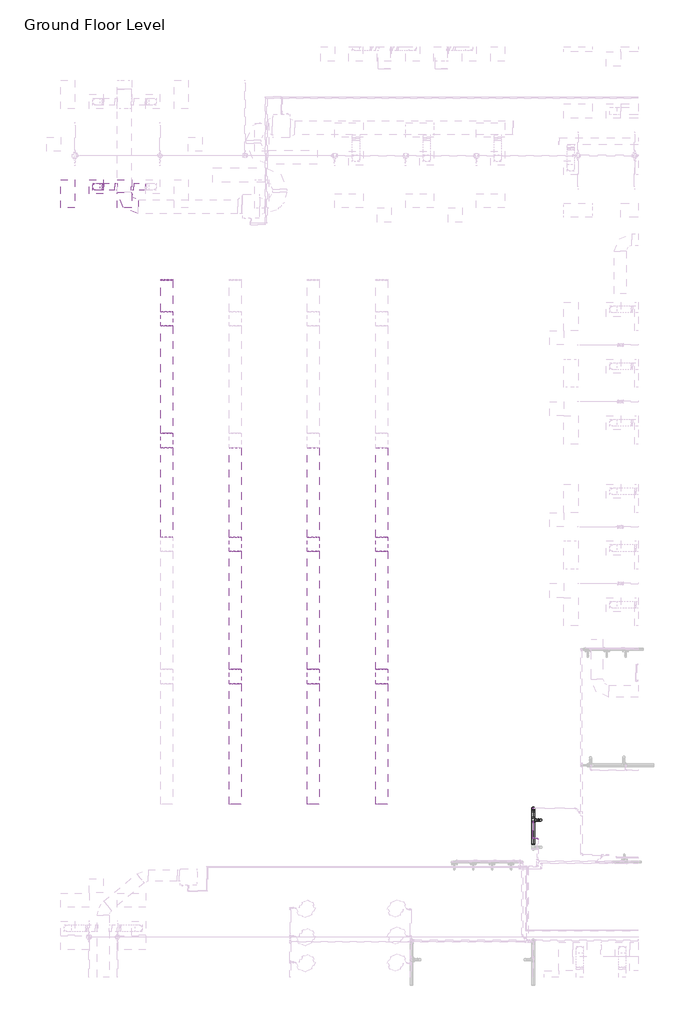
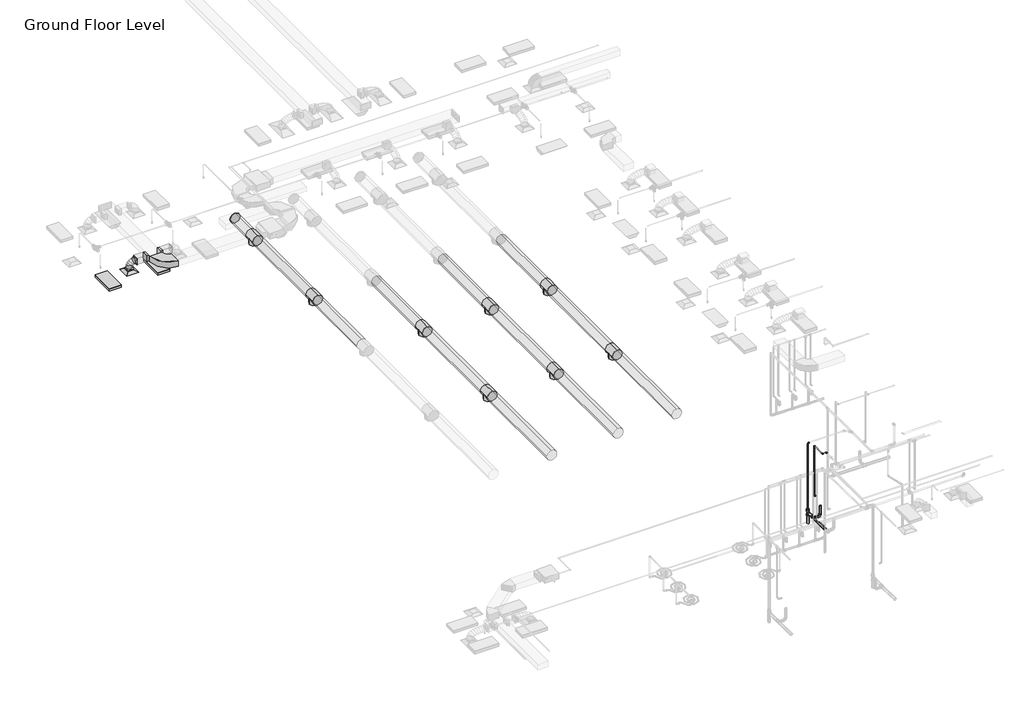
# One storey, part 9 of 72: 15 duct segments, 14 duct fittings, 11 pipe segments, 9 pipe fittings, 2 light fixtures, 1 air terminal.
"""IFC4 building model written with IfcOpenShell, lengths in millimetres."""

from ifc_helpers import new_model, si_unit, point, frame, frame_2d, origin, place, context, project, spatial, polyline, circle_curve, ellipse_curve, trimmed, segment, composite_curve, outline, extrude, transform, mapped, element, save
from ifc_brep_helpers import plane_surface, cylinder_surface, advanced_brep
from components import m_return_diffuser_600_x_600_face_300_x_300_connection_ff221211, m_rectangular_elbow_radius_1_w_c6ed0251, m_rectangular_takeoff_standard_cb0ccb98, m_rectangular_takeoff_standard_2be5eba1, m_rectangular_to_round_transition_angle_45_degree_641efff0, m_round_endcap_standard_1c45c55c, m_round_tee_standard_ed589d36, m_troffer_light_parabolic_rectangular1_0600x1200mm_4_lamp_86473d4a, m_bend_pvc_sch_40_dwv_standard_a4b99d37, m_bend_pvc_sch_40_dwv_standard_aca7b112, m_reducer_pvc_sch_40_dwv_standard_19331f3d, m_tee_reducing_sanitary_pvc_sch_40_dwv_standard_b49161a9, m_tee_reducing_sanitary_pvc_sch_40_dwv_standard_749dcb00, standard_517a5a8d

model = new_model("IFC4")

# Units and contexts
model_context = context("Model", 3, world=origin())
ifc_project = project(units=[si_unit("LENGTHUNIT", "METRE", prefix="MILLI")], contexts=[model_context])

# Site, building, storey
site = spatial("IfcSite", under=ifc_project)
building = spatial("IfcBuilding", under=site)
storey = spatial("IfcBuildingStorey", under=building, Name="Ground Floor Level", Elevation=900.0)

# Air terminal
placement = place(None, origin())
m_return_diffuser_600_x_600_face_300_x_300_connection_shape = m_return_diffuser_600_x_600_face_300_x_300_connection_ff221211(model_context)
element("IfcAirTerminal", 1, ObjectType="M_Supply Diffuser : 600 x 600 Face 300 x 300 Connection", at=placement, inside=storey, context=model_context, shape_type="MappedRepresentation", body=[
    mapped(m_return_diffuser_600_x_600_face_300_x_300_connection_shape, transform((-19137.2327605, -4264.7846466, 3650.0), x_axis=(1.0, 0.0, 0.0), y_axis=(0.0, 1.0, 0.0), z_axis=(0.0, 0.0, 1.0))),
])

# Duct fittings
m_rectangular_elbow_radius_1_w_shape = m_rectangular_elbow_radius_1_w_c6ed0251(model_context)
element("IfcDuctFitting", 2, ObjectType="M_Rectangular Elbow - Radius : 1 W", at=placement, inside=storey, context=model_context, shape_type="MappedRepresentation", body=[
    mapped(m_rectangular_elbow_radius_1_w_shape, transform((-17948.0331707, -5111.2846466, 4099.9999574), x_axis=(0.0, -0.999999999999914, -4.1482844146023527e-07), y_axis=(0.9999999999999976, 0.0, 7.102056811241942e-08), z_axis=(-7.102056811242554e-08, -4.1482844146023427e-07, 0.9999999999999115))),
])
m_rectangular_takeoff_standard_shape = m_rectangular_takeoff_standard_cb0ccb98(model_context)
element("IfcDuctFitting", 3, ObjectType="M_Rectangular Takeoff : Standard", at=placement, inside=storey, context=model_context, shape_type="MappedRepresentation", body=[
    mapped(m_rectangular_takeoff_standard_shape, transform((-18248.0331707, -4264.7846466, 4100.0003085), x_axis=(-1.0, 0.0, 0.0), y_axis=(0.0, 1.0, 0.0), z_axis=(0.0, 0.0, -1.0))),
])
m_rectangular_takeoff_standard_2_shape = m_rectangular_takeoff_standard_2be5eba1(model_context)
element("IfcDuctFitting", 4, ObjectType="M_Rectangular Takeoff : Standard", at=placement, inside=storey, context=model_context, shape_type="MappedRepresentation", body=[
    mapped(m_rectangular_takeoff_standard_2_shape, transform((-17648.0331707, -4264.7846466, 4100.0003085), x_axis=(1.0, 0.0, 0.0), y_axis=(0.0, -1.0, 0.0), z_axis=(0.0, 0.0, -1.0))),
])
m_rectangular_to_round_transition_angle_45_degree_shape = m_rectangular_to_round_transition_angle_45_degree_641efff0(model_context)
element("IfcDuctFitting", 5, ObjectType="M_Rectangular to Round Transition - Angle : 45 Degree", at=placement, inside=storey, context=model_context, shape_type="MappedRepresentation", body=[
    mapped(m_rectangular_to_round_transition_angle_45_degree_shape, transform((-19137.2327605, -4264.7846466, 3751.6), x_axis=(0.0, 0.0, 1.0), y_axis=(-1.0, 0.0, 0.0), z_axis=(0.0, -1.0, 0.0))),
])
element("IfcDuctFitting", 6, ObjectType="M_Rectangular to Round Transition - Angle : 45 Degree", at=placement, inside=storey, context=model_context, shape_type="MappedRepresentation", body=[
    mapped(m_rectangular_to_round_transition_angle_45_degree_shape, transform((-18809.8971378, -4264.7846466, 4100.0003085), x_axis=(-1.0, 0.0, 0.0), y_axis=(0.0, -1.0, 0.0), z_axis=(0.0, 0.0, 1.0))),
])
m_round_endcap_standard_shape = m_round_endcap_standard_1c45c55c(model_context)
element("IfcDuctFitting", 7, ObjectType="M_Round Endcap : Standard", at=placement, inside=storey, context=model_context, shape_type="MappedRepresentation", body=[
    mapped(m_round_endcap_standard_shape, transform((-16150.3527512, -8221.0125677, 7765.9), x_axis=(0.0, 0.9999999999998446, -5.576948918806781e-07), y_axis=(-1.0000000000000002, 0.0, 0.0), z_axis=(0.0, 5.576948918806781e-07, 0.9999999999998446))),
])
m_round_tee_standard_shape = m_round_tee_standard_ed589d36(model_context)
element("IfcDuctFitting", 8, ObjectType="M_Round Tee : Standard", at=placement, inside=storey, context=model_context, shape_type="MappedRepresentation", body=[
    mapped(m_round_tee_standard_shape, transform((-16150.3527512, -9864.7844235, 7765.9009947), x_axis=(0.0, 0.9999999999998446, -5.576948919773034e-07), y_axis=(0.0, 5.576948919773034e-07, 0.9999999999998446), z_axis=(1.0, 0.0, 0.0))),
])
element("IfcDuctFitting", 9, ObjectType="M_Round Tee : Standard", at=placement, inside=storey, context=model_context, shape_type="MappedRepresentation", body=[
    mapped(m_round_tee_standard_shape, transform((-16150.3527512, -15012.784348, 7765.9038657), x_axis=(0.0, 0.9999999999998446, -5.576948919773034e-07), y_axis=(0.0, 5.576948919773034e-07, 0.9999999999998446), z_axis=(1.0, 0.0, 0.0))),
])
element("IfcDuctFitting", 10, ObjectType="M_Round Tee : Standard", at=placement, inside=storey, context=model_context, shape_type="MappedRepresentation", body=[
    mapped(m_round_tee_standard_shape, transform((-13250.3527512, -19404.784563, 7765.9063151), x_axis=(0.0, 0.9999999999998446, -5.576948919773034e-07), y_axis=(0.0, 5.576948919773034e-07, 0.9999999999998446), z_axis=(1.0, 0.0, 0.0))),
])
element("IfcDuctFitting", 11, ObjectType="M_Round Tee : Standard", at=placement, inside=storey, context=model_context, shape_type="MappedRepresentation", body=[
    mapped(m_round_tee_standard_shape, transform((-13250.3527512, -25004.784563, 7765.9094382), x_axis=(0.0, 0.9999999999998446, -5.576948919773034e-07), y_axis=(0.0, 5.576948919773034e-07, 0.9999999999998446), z_axis=(1.0, 0.0, 0.0))),
])
element("IfcDuctFitting", 12, ObjectType="M_Round Tee : Standard", at=placement, inside=storey, context=model_context, shape_type="MappedRepresentation", body=[
    mapped(m_round_tee_standard_shape, transform((-9950.3527512, -19404.784563, 7765.9063151), x_axis=(0.0, 0.9999999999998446, -5.576948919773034e-07), y_axis=(0.0, 5.576948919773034e-07, 0.9999999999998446), z_axis=(1.0, 0.0, 0.0))),
])
element("IfcDuctFitting", 13, ObjectType="M_Round Tee : Standard", at=placement, inside=storey, context=model_context, shape_type="MappedRepresentation", body=[
    mapped(m_round_tee_standard_shape, transform((-9950.3527512, -25004.784563, 7765.9094382), x_axis=(0.0, 0.9999999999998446, -5.576948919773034e-07), y_axis=(0.0, 5.576948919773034e-07, 0.9999999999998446), z_axis=(1.0, 0.0, 0.0))),
])
element("IfcDuctFitting", 14, ObjectType="M_Round Tee : Standard", at=placement, inside=storey, context=model_context, shape_type="MappedRepresentation", body=[
    mapped(m_round_tee_standard_shape, transform((-7050.3527512, -19404.784563, 7765.9063151), x_axis=(0.0, 0.9999999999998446, -5.576948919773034e-07), y_axis=(0.0, 5.576948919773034e-07, 0.9999999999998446), z_axis=(1.0, 0.0, 0.0))),
])
element("IfcDuctFitting", 15, ObjectType="M_Round Tee : Standard", at=placement, inside=storey, context=model_context, shape_type="MappedRepresentation", body=[
    mapped(m_round_tee_standard_shape, transform((-7050.3527512, -25004.784563, 7765.9094382), x_axis=(0.0, 0.9999999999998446, -5.576948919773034e-07), y_axis=(0.0, 5.576948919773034e-07, 0.9999999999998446), z_axis=(1.0, 0.0, 0.0))),
])

# Duct segments
element("IfcDuctSegment", 16, ObjectType="Flex - Round", at=placement, inside=storey, context=model_context, shape_type="AdvancedBrep", body=[
    advanced_brep(
    [(-18987.2327605, -4264.7846466, 3826.6), (-19137.2327605, -4414.7846466, 3826.6), (-19287.2327605, -4264.7846466, 3826.6), (-19137.2327605, -4114.7846466, 3826.6), (-18987.2327605, -4264.7846466, 3832.5806494), (-19137.2327605, -4414.7846466, 3854.3870846), (-19287.2327605, -4264.7846466, 3876.1935198), (-19137.2327605, -4114.7846466, 3854.3870846), (-18983.2864584, -4264.7846466, 3845.866521), (-19122.8954468, -4414.7846466, 3902.6559964), (-19262.5044353, -4264.7846466, 3959.4454718), (-19122.8954468, -4114.7846466, 3902.6559964), (-18960.1038556, -4264.7846466, 3889.9713348), (-19084.1273946, -4414.7846466, 3976.4120685), (-19208.1509336, -4264.7846466, 4062.8528022), (-19084.1273946, -4114.7846466, 3976.4120685), (-18929.3324827, -4264.7846466, 3924.1186367), (-19027.2944369, -4414.7846466, 4039.4801732), (-19125.2563911, -4264.7846466, 4154.8417097), (-19027.2944369, -4114.7846466, 4039.4801732), (-18889.6598286, -4264.7846466, 3949.5853148), (-18958.7624069, -4414.7846466, 4083.4722675), (-19027.8649852, -4264.7846466, 4217.3592203), (-18958.7624069, -4114.7846466, 4083.4722675), (-18888.6275862, -4264.7846466, 3950.0003085), (-18917.6510814, -4414.7846466, 4100.0003085), (-18946.6745767, -4264.7846466, 4250.0003085), (-18917.6510814, -4114.7846466, 4100.0003085), (-18884.8971378, -4264.7846466, 3950.0003085), (-18884.8971378, -4114.7846466, 4100.0003085), (-18884.8971378, -4264.7846466, 4250.0003085), (-18884.8971378, -4414.7846466, 4100.0003085)],
    [
        (0, 1, circle_curve(frame((-19137.2327605, -4264.7846466, 3826.6), z_axis=(0.0, 0.0, -1.0), x_axis=(1.0, 0.0, 0.0)), 150.0)),
        (1, 2, circle_curve(frame((-19137.2327605, -4264.7846466, 3826.6), z_axis=(0.0, 0.0, -1.0), x_axis=(1.0, 0.0, 0.0)), 150.0)),
        (2, 3, circle_curve(frame((-19137.2327605, -4264.7846466, 3826.6), z_axis=(0.0, 0.0, -1.0), x_axis=(1.0, 0.0, 0.0)), 150.0)),
        (3, 0, circle_curve(frame((-19137.2327605, -4264.7846466, 3826.6), z_axis=(0.0, 0.0, -1.0), x_axis=(1.0, 0.0, 0.0)), 150.0)),
        (0, 4),
        (4, 5, ellipse_curve(frame((-19137.2327605, -4264.7846466, 3854.3870846), z_axis=(-0.14386395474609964, 0.0, -0.9895974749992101), x_axis=(0.9895974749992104, 0.0, -0.14386395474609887)), 151.5767813, 150.0)),
        (5, 1),
        (5, 6, ellipse_curve(frame((-19137.2327605, -4264.7846466, 3854.3870846), z_axis=(-0.14386395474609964, 0.0, -0.9895974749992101), x_axis=(0.9895974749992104, 0.0, -0.14386395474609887)), 151.5767813, 150.0)),
        (6, 2),
        (6, 7, ellipse_curve(frame((-19137.2327605, -4264.7846466, 3854.3870846), z_axis=(-0.14386395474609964, 0.0, -0.9895974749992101), x_axis=(0.9895974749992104, 0.0, -0.14386395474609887)), 151.5767813, 150.0)),
        (7, 3),
        (7, 4, ellipse_curve(frame((-19137.2327605, -4264.7846466, 3854.3870846), z_axis=(-0.14386395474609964, 0.0, -0.9895974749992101), x_axis=(0.9895974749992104, 0.0, -0.14386395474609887)), 151.5767813, 150.0)),
        (4, 8),
        (8, 9, ellipse_curve(frame((-19122.8954468, -4264.7846466, 3902.6559964), z_axis=(-0.376794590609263, 0.0, -0.9262968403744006), x_axis=(0.9262968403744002, 0.0, -0.37679459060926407)), 150.717332, 150.0)),
        (9, 5),
        (9, 10, ellipse_curve(frame((-19122.8954468, -4264.7846466, 3902.6559964), z_axis=(-0.376794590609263, 0.0, -0.9262968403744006), x_axis=(0.9262968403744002, 0.0, -0.37679459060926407)), 150.717332, 150.0)),
        (10, 6),
        (10, 11, ellipse_curve(frame((-19122.8954468, -4264.7846466, 3902.6559964), z_axis=(-0.376794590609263, 0.0, -0.9262968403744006), x_axis=(0.9262968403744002, 0.0, -0.37679459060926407)), 150.717332, 150.0)),
        (11, 7),
        (11, 8, ellipse_curve(frame((-19122.8954468, -4264.7846466, 3902.6559964), z_axis=(-0.376794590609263, 0.0, -0.9262968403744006), x_axis=(0.9262968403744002, 0.0, -0.37679459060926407)), 150.717332, 150.0)),
        (8, 12),
        (12, 13, ellipse_curve(frame((-19084.1273946, -4264.7846466, 3976.4120685), z_axis=(-0.5717930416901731, 0.0, -0.8203979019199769), x_axis=(0.8203979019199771, 0.0, -0.5717930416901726)), 151.1748612, 150.0)),
        (13, 9),
        (13, 14, ellipse_curve(frame((-19084.1273946, -4264.7846466, 3976.4120685), z_axis=(-0.5717930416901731, 0.0, -0.8203979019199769), x_axis=(0.8203979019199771, 0.0, -0.5717930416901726)), 151.1748612, 150.0)),
        (14, 10),
        (14, 15, ellipse_curve(frame((-19084.1273946, -4264.7846466, 3976.4120685), z_axis=(-0.5717930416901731, 0.0, -0.8203979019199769), x_axis=(0.8203979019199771, 0.0, -0.5717930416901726)), 151.1748612, 150.0)),
        (15, 11),
        (15, 12, ellipse_curve(frame((-19084.1273946, -4264.7846466, 3976.4120685), z_axis=(-0.5717930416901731, 0.0, -0.8203979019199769), x_axis=(0.8203979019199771, 0.0, -0.5717930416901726)), 151.1748612, 150.0)),
        (12, 16),
        (16, 17, ellipse_curve(frame((-19027.2944369, -4264.7846466, 4039.4801732), z_axis=(-0.7622501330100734, 0.0, -0.6472825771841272), x_axis=(0.6472825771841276, 0.0, -0.7622501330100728)), 151.3434127, 150.0)),
        (17, 13),
        (17, 18, ellipse_curve(frame((-19027.2944369, -4264.7846466, 4039.4801732), z_axis=(-0.7622501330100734, 0.0, -0.6472825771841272), x_axis=(0.6472825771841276, 0.0, -0.7622501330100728)), 151.3434127, 150.0)),
        (18, 14),
        (18, 19, ellipse_curve(frame((-19027.2944369, -4264.7846466, 4039.4801732), z_axis=(-0.7622501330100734, 0.0, -0.6472825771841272), x_axis=(0.6472825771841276, 0.0, -0.7622501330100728)), 151.3434127, 150.0)),
        (19, 15),
        (19, 16, ellipse_curve(frame((-19027.2944369, -4264.7846466, 4039.4801732), z_axis=(-0.7622501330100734, 0.0, -0.6472825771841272), x_axis=(0.6472825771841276, 0.0, -0.7622501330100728)), 151.3434127, 150.0)),
        (16, 20),
        (20, 21, ellipse_curve(frame((-18958.7624069, -4264.7846466, 4083.4722675), z_axis=(-0.8886216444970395, 0.0, -0.45864100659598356), x_axis=(0.45864100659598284, 0.0, -0.88862164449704)), 150.6681202, 150.0)),
        (21, 17),
        (21, 22, ellipse_curve(frame((-18958.7624069, -4264.7846466, 4083.4722675), z_axis=(-0.8886216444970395, 0.0, -0.45864100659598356), x_axis=(0.45864100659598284, 0.0, -0.88862164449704)), 150.6681202, 150.0)),
        (22, 18),
        (22, 23, ellipse_curve(frame((-18958.7624069, -4264.7846466, 4083.4722675), z_axis=(-0.8886216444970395, 0.0, -0.45864100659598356), x_axis=(0.45864100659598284, 0.0, -0.88862164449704)), 150.6681202, 150.0)),
        (23, 19),
        (23, 20, ellipse_curve(frame((-18958.7624069, -4264.7846466, 4083.4722675), z_axis=(-0.8886216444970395, 0.0, -0.45864100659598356), x_axis=(0.45864100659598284, 0.0, -0.88862164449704)), 150.6681202, 150.0)),
        (20, 24),
        (24, 25, ellipse_curve(frame((-18917.6510814, -4264.7846466, 4100.0003085), z_axis=(-0.9817905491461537, 0.0, -0.18996662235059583), x_axis=(0.18996662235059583, 0.0, -0.9817905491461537)), 152.7820777, 150.0)),
        (25, 21),
        (25, 26, ellipse_curve(frame((-18917.6510814, -4264.7846466, 4100.0003085), z_axis=(-0.9817905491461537, 0.0, -0.18996662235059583), x_axis=(0.18996662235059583, 0.0, -0.9817905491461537)), 152.7820777, 150.0)),
        (26, 22),
        (26, 27, ellipse_curve(frame((-18917.6510814, -4264.7846466, 4100.0003085), z_axis=(-0.9817905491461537, 0.0, -0.18996662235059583), x_axis=(0.18996662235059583, 0.0, -0.9817905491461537)), 152.7820777, 150.0)),
        (27, 23),
        (27, 24, ellipse_curve(frame((-18917.6510814, -4264.7846466, 4100.0003085), z_axis=(-0.9817905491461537, 0.0, -0.18996662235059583), x_axis=(0.18996662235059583, 0.0, -0.9817905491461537)), 152.7820777, 150.0)),
        (28, 29, circle_curve(frame((-18884.8971378, -4264.7846466, 4100.0003085), z_axis=(1.0, 0.0, 0.0), x_axis=(0.0, 0.0, -1.0)), 150.0)),
        (29, 30, circle_curve(frame((-18884.8971378, -4264.7846466, 4100.0003085), z_axis=(1.0, 0.0, 0.0), x_axis=(0.0, 0.0, -1.0)), 150.0)),
        (30, 31, circle_curve(frame((-18884.8971378, -4264.7846466, 4100.0003085), z_axis=(1.0, 0.0, 0.0), x_axis=(0.0, 0.0, -1.0)), 150.0)),
        (31, 28, circle_curve(frame((-18884.8971378, -4264.7846466, 4100.0003085), z_axis=(1.0, 0.0, 0.0), x_axis=(0.0, 0.0, -1.0)), 150.0)),
        (24, 28),
        (31, 25),
        (30, 26),
        (29, 27),
    ],
    [
        plane_surface(frame((-19137.2327605, -4414.7846466, 3826.6), z_axis=(0.0, 0.0, -1.0), x_axis=(1.0, 0.0, 0.0))),
        cylinder_surface(frame((-19137.2327605, -4264.7846466, 3826.6), z_axis=(0.0, 0.0, -1.0), x_axis=(1.0, 0.0, 0.0)), 150.0),
        cylinder_surface(frame((-19137.2327605, -4264.7846466, 3854.3870846), z_axis=(-0.28473481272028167, 0.0, -0.9586063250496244), x_axis=(0.9586063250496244, 0.0, -0.28473481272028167)), 150.0),
        cylinder_surface(frame((-19122.8954468, -4264.7846466, 3902.6559964), z_axis=(-0.4652676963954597, 0.0, -0.8851700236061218), x_axis=(0.8851700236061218, 0.0, -0.4652676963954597)), 150.0),
        cylinder_surface(frame((-19084.1273946, -4264.7846466, 3976.4120685), z_axis=(-0.6694309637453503, 0.0, -0.7428742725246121), x_axis=(0.7428742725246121, 0.0, -0.6694309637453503)), 150.0),
        cylinder_surface(frame((-19027.2944369, -4264.7846466, 4039.4801732), z_axis=(-0.8415369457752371, 0.0, -0.5401995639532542), x_axis=(0.5401995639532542, 0.0, -0.8415369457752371)), 150.0),
        cylinder_surface(frame((-18958.7624069, -4264.7846466, 4083.4722675), z_axis=(-0.9278253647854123, 0.0, -0.37301486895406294), x_axis=(0.37301486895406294, 0.0, -0.9278253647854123)), 150.0),
        plane_surface(frame((-18884.8971378, -4264.7846466, 3950.0003085), z_axis=(1.0, 0.0, 0.0), x_axis=(0.0, 1.0, 0.0))),
        cylinder_surface(frame((-18917.6510814, -4264.7846466, 4100.0003085), z_axis=(-1.0, 0.0, 0.0), x_axis=(0.0, 0.0, -1.0)), 150.0),
    ],
    [
        (0, [[1, 2, 3, 4]]),
        (1, [[-1, 5, 6, 7]]),
        (1, [[-2, -7, 8, 9]]),
        (1, [[-3, -9, 10, 11]]),
        (1, [[-4, -11, 12, -5]]),
        (2, [[-6, 13, 14, 15]]),
        (2, [[-8, -15, 16, 17]]),
        (2, [[-10, -17, 18, 19]]),
        (2, [[-12, -19, 20, -13]]),
        (3, [[-14, 21, 22, 23]]),
        (3, [[-16, -23, 24, 25]]),
        (3, [[-18, -25, 26, 27]]),
        (3, [[-20, -27, 28, -21]]),
        (4, [[-22, 29, 30, 31]]),
        (4, [[-24, -31, 32, 33]]),
        (4, [[-26, -33, 34, 35]]),
        (4, [[-28, -35, 36, -29]]),
        (5, [[-30, 37, 38, 39]]),
        (5, [[-32, -39, 40, 41]]),
        (5, [[-34, -41, 42, 43]]),
        (5, [[-36, -43, 44, -37]]),
        (6, [[-38, 45, 46, 47]]),
        (6, [[-40, -47, 48, 49]]),
        (6, [[-42, -49, 50, 51]]),
        (6, [[-44, -51, 52, -45]]),
        (7, [[53, 54, 55, 56]]),
        (8, [[-46, 57, -56, 58]]),
        (8, [[-48, -58, -55, 59]]),
        (8, [[-50, -59, -54, 60]]),
        (8, [[-52, -60, -53, -57]]),
    ],
),
])
element("IfcDuctSegment", 17, ObjectType="Radius Elbows / Taps", at=placement, inside=storey, context=model_context, shape_type="SweptSolid", body=[
    extrude(outline(polyline([(-17546.4331707, -4414.7846466), (-17546.4331707, -4114.7846466), (-17064.5683833, -4114.7846466), (-17064.5683833, -4414.7846466), (-17546.4331707, -4414.7846466)])), frame((0.0, 0.0, 3950.0003085), z_axis=(0.0, 0.0, 1.0), x_axis=(1.0, 0.0, 0.0)), (0.0, 0.0, 1.0), 300.0),
])
element("IfcDuctSegment", 18, ObjectType="Radius Elbows / Taps", at=placement, inside=storey, context=model_context, shape_type="SweptSolid", body=[
    extrude(outline(polyline([(-18349.6331707, -4114.7846466), (-18349.6331707, -4414.7846466), (-18809.8971378, -4414.7846466), (-18809.8971378, -4114.7846466), (-18349.6331707, -4114.7846466)])), frame((0.0, 0.0, 3950.0003085), z_axis=(0.0, 0.0, 1.0), x_axis=(1.0, 0.0, 0.0)), (0.0, 0.0, 1.0), 300.0),
])
element("IfcDuctSegment", 19, ObjectType="Tees", at=placement, inside=storey, context=model_context, shape_type="SweptSolid", body=[
    extrude(outline(composite_curve([segment(trimmed(circle_curve(frame_2d((7765.9008274, -16150.3527512)), 250.0), [point((7765.9008274, -16400.3527512))], [point((7515.9008274, -16150.3527512))], False, "CARTESIAN"), True, "CONTINUOUS"), segment(trimmed(circle_curve(frame_2d((7765.9008274, -16150.3527512)), 250.0), [point((7515.9008274, -16150.3527512))], [point((7765.9008274, -15900.3527512))], False, "CARTESIAN"), True, "CONTINUOUS"), segment(trimmed(circle_curve(frame_2d((7765.9008274, -16150.3527512)), 250.0), [point((7765.9008274, -15900.3527512))], [point((8015.9008274, -16150.3527512))], False, "CARTESIAN"), True, "CONTINUOUS"), segment(trimmed(circle_curve(frame_2d((7765.9008274, -16150.3527512)), 250.0), [point((8015.9008274, -16150.3527512))], [point((7765.9008274, -16400.3527512))], False, "CARTESIAN"), True, "CONTINUOUS")], self_intersect=False)), frame((0.0, -9564.7844235, 0.0), z_axis=(0.0, 1.0, 0.0), x_axis=(0.0, 0.0, 1.0)), (0.0, 0.0, 1.0), 1343.7718558),
])
element("IfcDuctSegment", 20, ObjectType="Tees", at=placement, inside=storey, context=model_context, shape_type="SweptSolid", body=[
    extrude(outline(composite_curve([segment(trimmed(circle_curve(frame_2d((7765.901162, -16150.3527512)), 250.0), [point((7765.901162, -16400.3527512))], [point((7515.901162, -16150.3527512))], False, "CARTESIAN"), True, "CONTINUOUS"), segment(trimmed(circle_curve(frame_2d((7765.901162, -16150.3527512)), 250.0), [point((7515.901162, -16150.3527512))], [point((7765.901162, -15900.3527512))], False, "CARTESIAN"), True, "CONTINUOUS"), segment(trimmed(circle_curve(frame_2d((7765.901162, -16150.3527512)), 250.0), [point((7765.901162, -15900.3527512))], [point((8015.901162, -16150.3527512))], False, "CARTESIAN"), True, "CONTINUOUS"), segment(trimmed(circle_curve(frame_2d((7765.901162, -16150.3527512)), 250.0), [point((8015.901162, -16150.3527512))], [point((7765.901162, -16400.3527512))], False, "CARTESIAN"), True, "CONTINUOUS")], self_intersect=False)), frame((0.0, -14712.784348, 0.0), z_axis=(0.0, 1.0, 0.0), x_axis=(0.0, 0.0, 1.0)), (0.0, 0.0, 1.0), 4547.9999245),
])
element("IfcDuctSegment", 21, ObjectType="Tees", at=placement, inside=storey, context=model_context, shape_type="SweptSolid", body=[
    extrude(outline(composite_curve([segment(trimmed(circle_curve(frame_2d((7765.9061478, -16150.3527512)), 250.0), [point((7765.9061478, -15900.3527512))], [point((8015.9061478, -16150.3527512))], False, "CARTESIAN"), True, "CONTINUOUS"), segment(trimmed(circle_curve(frame_2d((7765.9061478, -16150.3527512)), 250.0), [point((8015.9061478, -16150.3527512))], [point((7765.9061478, -16400.3527512))], False, "CARTESIAN"), True, "CONTINUOUS"), segment(trimmed(circle_curve(frame_2d((7765.9061478, -16150.3527512)), 250.0), [point((7765.9061478, -16400.3527512))], [point((7515.9061478, -16150.3527512))], False, "CARTESIAN"), True, "CONTINUOUS"), segment(trimmed(circle_curve(frame_2d((7765.9061478, -16150.3527512)), 250.0), [point((7515.9061478, -16150.3527512))], [point((7765.9061478, -15900.3527512))], False, "CARTESIAN"), True, "CONTINUOUS")], self_intersect=False)), frame((0.0, -19104.784563, 0.0), z_axis=(0.0, 1.0, 0.0), x_axis=(0.0, 0.0, 1.0)), (0.0, 0.0, 1.0), 3792.000215),
])
element("IfcDuctSegment", 22, ObjectType="Tees", at=placement, inside=storey, context=model_context, shape_type="SweptSolid", body=[
    extrude(outline(composite_curve([segment(trimmed(circle_curve(frame_2d((7765.9061478, -13250.3527512)), 250.0), [point((7765.9061478, -13000.3527512))], [point((8015.9061478, -13250.3527512))], False, "CARTESIAN"), True, "CONTINUOUS"), segment(trimmed(circle_curve(frame_2d((7765.9061478, -13250.3527512)), 250.0), [point((8015.9061478, -13250.3527512))], [point((7765.9061478, -13500.3527512))], False, "CARTESIAN"), True, "CONTINUOUS"), segment(trimmed(circle_curve(frame_2d((7765.9061478, -13250.3527512)), 250.0), [point((7765.9061478, -13500.3527512))], [point((7515.9061478, -13250.3527512))], False, "CARTESIAN"), True, "CONTINUOUS"), segment(trimmed(circle_curve(frame_2d((7765.9061478, -13250.3527512)), 250.0), [point((7515.9061478, -13250.3527512))], [point((7765.9061478, -13000.3527512))], False, "CARTESIAN"), True, "CONTINUOUS")], self_intersect=False)), frame((0.0, -19104.784563, 0.0), z_axis=(0.0, 1.0, 0.0), x_axis=(0.0, 0.0, 1.0)), (0.0, 0.0, 1.0), 3792.000215),
])
element("IfcDuctSegment", 23, ObjectType="Tees", at=placement, inside=storey, context=model_context, shape_type="SweptSolid", body=[
    extrude(outline(composite_curve([segment(trimmed(circle_curve(frame_2d((7765.9092709, -13250.3527512)), 250.0), [point((7765.9092709, -13000.3527512))], [point((8015.9092709, -13250.3527512))], False, "CARTESIAN"), True, "CONTINUOUS"), segment(trimmed(circle_curve(frame_2d((7765.9092709, -13250.3527512)), 250.0), [point((8015.9092709, -13250.3527512))], [point((7765.9092709, -13500.3527512))], False, "CARTESIAN"), True, "CONTINUOUS"), segment(trimmed(circle_curve(frame_2d((7765.9092709, -13250.3527512)), 250.0), [point((7765.9092709, -13500.3527512))], [point((7515.9092709, -13250.3527512))], False, "CARTESIAN"), True, "CONTINUOUS"), segment(trimmed(circle_curve(frame_2d((7765.9092709, -13250.3527512)), 250.0), [point((7515.9092709, -13250.3527512))], [point((7765.9092709, -13000.3527512))], False, "CARTESIAN"), True, "CONTINUOUS")], self_intersect=False)), frame((0.0, -24704.784563, 0.0), z_axis=(0.0, 1.0, 0.0), x_axis=(0.0, 0.0, 1.0)), (0.0, 0.0, 1.0), 5000.0),
])
element("IfcDuctSegment", 24, ObjectType="Tees", at=placement, inside=storey, context=model_context, shape_type="SweptSolid", body=[
    extrude(outline(composite_curve([segment(trimmed(circle_curve(frame_2d((7765.9125, -13250.3527512)), 250.0), [point((7765.9125, -13000.3527512))], [point((8015.9125, -13250.3527512))], False, "CARTESIAN"), True, "CONTINUOUS"), segment(trimmed(circle_curve(frame_2d((7765.9125, -13250.3527512)), 250.0), [point((8015.9125, -13250.3527512))], [point((7765.9125, -13500.3527512))], False, "CARTESIAN"), True, "CONTINUOUS"), segment(trimmed(circle_curve(frame_2d((7765.9125, -13250.3527512)), 250.0), [point((7765.9125, -13500.3527512))], [point((7515.9125, -13250.3527512))], False, "CARTESIAN"), True, "CONTINUOUS"), segment(trimmed(circle_curve(frame_2d((7765.9125, -13250.3527512)), 250.0), [point((7515.9125, -13250.3527512))], [point((7765.9125, -13000.3527512))], False, "CARTESIAN"), True, "CONTINUOUS")], self_intersect=False)), frame((0.0, -30422.0587669, 0.0), z_axis=(0.0, 1.0, 0.0), x_axis=(0.0, 0.0, 1.0)), (0.0, 0.0, 1.0), 5117.2742039),
])
element("IfcDuctSegment", 25, ObjectType="Tees", at=placement, inside=storey, context=model_context, shape_type="SweptSolid", body=[
    extrude(outline(composite_curve([segment(trimmed(circle_curve(frame_2d((7765.9061478, -9950.3527512)), 250.0), [point((7765.9061478, -9700.3527512))], [point((8015.9061478, -9950.3527512))], False, "CARTESIAN"), True, "CONTINUOUS"), segment(trimmed(circle_curve(frame_2d((7765.9061478, -9950.3527512)), 250.0), [point((8015.9061478, -9950.3527512))], [point((7765.9061478, -10200.3527512))], False, "CARTESIAN"), True, "CONTINUOUS"), segment(trimmed(circle_curve(frame_2d((7765.9061478, -9950.3527512)), 250.0), [point((7765.9061478, -10200.3527512))], [point((7515.9061478, -9950.3527512))], False, "CARTESIAN"), True, "CONTINUOUS"), segment(trimmed(circle_curve(frame_2d((7765.9061478, -9950.3527512)), 250.0), [point((7515.9061478, -9950.3527512))], [point((7765.9061478, -9700.3527512))], False, "CARTESIAN"), True, "CONTINUOUS")], self_intersect=False)), frame((0.0, -19104.784563, 0.0), z_axis=(0.0, 1.0, 0.0), x_axis=(0.0, 0.0, 1.0)), (0.0, 0.0, 1.0), 3792.000215),
])
element("IfcDuctSegment", 26, ObjectType="Tees", at=placement, inside=storey, context=model_context, shape_type="SweptSolid", body=[
    extrude(outline(composite_curve([segment(trimmed(circle_curve(frame_2d((7765.9092709, -9950.3527512)), 250.0), [point((7765.9092709, -9700.3527512))], [point((8015.9092709, -9950.3527512))], False, "CARTESIAN"), True, "CONTINUOUS"), segment(trimmed(circle_curve(frame_2d((7765.9092709, -9950.3527512)), 250.0), [point((8015.9092709, -9950.3527512))], [point((7765.9092709, -10200.3527512))], False, "CARTESIAN"), True, "CONTINUOUS"), segment(trimmed(circle_curve(frame_2d((7765.9092709, -9950.3527512)), 250.0), [point((7765.9092709, -10200.3527512))], [point((7515.9092709, -9950.3527512))], False, "CARTESIAN"), True, "CONTINUOUS"), segment(trimmed(circle_curve(frame_2d((7765.9092709, -9950.3527512)), 250.0), [point((7515.9092709, -9950.3527512))], [point((7765.9092709, -9700.3527512))], False, "CARTESIAN"), True, "CONTINUOUS")], self_intersect=False)), frame((0.0, -24704.784563, 0.0), z_axis=(0.0, 1.0, 0.0), x_axis=(0.0, 0.0, 1.0)), (0.0, 0.0, 1.0), 5000.0),
])
element("IfcDuctSegment", 27, ObjectType="Tees", at=placement, inside=storey, context=model_context, shape_type="SweptSolid", body=[
    extrude(outline(composite_curve([segment(trimmed(circle_curve(frame_2d((7765.9125, -9950.3527512)), 250.0), [point((7765.9125, -9700.3527512))], [point((8015.9125, -9950.3527512))], False, "CARTESIAN"), True, "CONTINUOUS"), segment(trimmed(circle_curve(frame_2d((7765.9125, -9950.3527512)), 250.0), [point((8015.9125, -9950.3527512))], [point((7765.9125, -10200.3527512))], False, "CARTESIAN"), True, "CONTINUOUS"), segment(trimmed(circle_curve(frame_2d((7765.9125, -9950.3527512)), 250.0), [point((7765.9125, -10200.3527512))], [point((7515.9125, -9950.3527512))], False, "CARTESIAN"), True, "CONTINUOUS"), segment(trimmed(circle_curve(frame_2d((7765.9125, -9950.3527512)), 250.0), [point((7515.9125, -9950.3527512))], [point((7765.9125, -9700.3527512))], False, "CARTESIAN"), True, "CONTINUOUS")], self_intersect=False)), frame((0.0, -30422.0587669, 0.0), z_axis=(0.0, 1.0, 0.0), x_axis=(0.0, 0.0, 1.0)), (0.0, 0.0, 1.0), 5117.2742039),
])
element("IfcDuctSegment", 28, ObjectType="Tees", at=placement, inside=storey, context=model_context, shape_type="SweptSolid", body=[
    extrude(outline(composite_curve([segment(trimmed(circle_curve(frame_2d((7765.9061478, -7050.3527512)), 250.0), [point((7765.9061478, -6800.3527512))], [point((8015.9061478, -7050.3527512))], False, "CARTESIAN"), True, "CONTINUOUS"), segment(trimmed(circle_curve(frame_2d((7765.9061478, -7050.3527512)), 250.0), [point((8015.9061478, -7050.3527512))], [point((7765.9061478, -7300.3527512))], False, "CARTESIAN"), True, "CONTINUOUS"), segment(trimmed(circle_curve(frame_2d((7765.9061478, -7050.3527512)), 250.0), [point((7765.9061478, -7300.3527512))], [point((7515.9061478, -7050.3527512))], False, "CARTESIAN"), True, "CONTINUOUS"), segment(trimmed(circle_curve(frame_2d((7765.9061478, -7050.3527512)), 250.0), [point((7515.9061478, -7050.3527512))], [point((7765.9061478, -6800.3527512))], False, "CARTESIAN"), True, "CONTINUOUS")], self_intersect=False)), frame((0.0, -19104.784563, 0.0), z_axis=(0.0, 1.0, 0.0), x_axis=(0.0, 0.0, 1.0)), (0.0, 0.0, 1.0), 3792.000215),
])
element("IfcDuctSegment", 29, ObjectType="Tees", at=placement, inside=storey, context=model_context, shape_type="SweptSolid", body=[
    extrude(outline(composite_curve([segment(trimmed(circle_curve(frame_2d((7765.9092709, -7050.3527512)), 250.0), [point((7765.9092709, -6800.3527512))], [point((8015.9092709, -7050.3527512))], False, "CARTESIAN"), True, "CONTINUOUS"), segment(trimmed(circle_curve(frame_2d((7765.9092709, -7050.3527512)), 250.0), [point((8015.9092709, -7050.3527512))], [point((7765.9092709, -7300.3527512))], False, "CARTESIAN"), True, "CONTINUOUS"), segment(trimmed(circle_curve(frame_2d((7765.9092709, -7050.3527512)), 250.0), [point((7765.9092709, -7300.3527512))], [point((7515.9092709, -7050.3527512))], False, "CARTESIAN"), True, "CONTINUOUS"), segment(trimmed(circle_curve(frame_2d((7765.9092709, -7050.3527512)), 250.0), [point((7515.9092709, -7050.3527512))], [point((7765.9092709, -6800.3527512))], False, "CARTESIAN"), True, "CONTINUOUS")], self_intersect=False)), frame((0.0, -24704.784563, 0.0), z_axis=(0.0, 1.0, 0.0), x_axis=(0.0, 0.0, 1.0)), (0.0, 0.0, 1.0), 5000.0),
])
element("IfcDuctSegment", 30, ObjectType="Tees", at=placement, inside=storey, context=model_context, shape_type="SweptSolid", body=[
    extrude(outline(composite_curve([segment(trimmed(circle_curve(frame_2d((7765.9125, -7050.3527512)), 250.0), [point((7765.9125, -6800.3527512))], [point((8015.9125, -7050.3527512))], False, "CARTESIAN"), True, "CONTINUOUS"), segment(trimmed(circle_curve(frame_2d((7765.9125, -7050.3527512)), 250.0), [point((8015.9125, -7050.3527512))], [point((7765.9125, -7300.3527512))], False, "CARTESIAN"), True, "CONTINUOUS"), segment(trimmed(circle_curve(frame_2d((7765.9125, -7050.3527512)), 250.0), [point((7765.9125, -7300.3527512))], [point((7515.9125, -7050.3527512))], False, "CARTESIAN"), True, "CONTINUOUS"), segment(trimmed(circle_curve(frame_2d((7765.9125, -7050.3527512)), 250.0), [point((7515.9125, -7050.3527512))], [point((7765.9125, -6800.3527512))], False, "CARTESIAN"), True, "CONTINUOUS")], self_intersect=False)), frame((0.0, -30422.0587669, 0.0), z_axis=(0.0, 1.0, 0.0), x_axis=(0.0, 0.0, 1.0)), (0.0, 0.0, 1.0), 5117.2742039),
])

# Light fixtures
m_troffer_light_parabolic_rectangular1_0600x1200mm_4_lamp_shape = m_troffer_light_parabolic_rectangular1_0600x1200mm_4_lamp_86473d4a(model_context)
element("IfcLightFixture", 31, ObjectType="M_Troffer Light - Parabolic Rectangular1 : 0600x1200mm(4 Lamp) - 277V 2", at=placement, inside=storey, context=model_context, shape_type="MappedRepresentation", body=[
    mapped(m_troffer_light_parabolic_rectangular1_0600x1200mm_4_lamp_shape, transform((-20396.6986926, -4546.081145, 3650.0), x_axis=(0.0, 1.0, 0.0), y_axis=(-1.0, 0.0, 0.0), z_axis=(0.0, 0.0, 1.0))),
])
element("IfcLightFixture", 32, ObjectType="M_Troffer Light - Parabolic Rectangular1 : 0600x1200mm(4 Lamp) - 277V 2", at=placement, inside=storey, context=model_context, shape_type="MappedRepresentation", body=[
    mapped(m_troffer_light_parabolic_rectangular1_0600x1200mm_4_lamp_shape, transform((-17996.6986926, -4546.081145, 3650.0), x_axis=(0.0, 1.0, 0.0), y_axis=(-1.0, 0.0, 0.0), z_axis=(0.0, 0.0, 1.0))),
])

# Pipe fittings
m_bend_pvc_sch_40_dwv_standard_shape = m_bend_pvc_sch_40_dwv_standard_a4b99d37(model_context)
element("IfcPipeFitting", 33, ObjectType="M_Bend - PVC - Sch 40 - DWV : Standard", at=placement, inside=storey, context=model_context, shape_type="MappedRepresentation", body=[
    mapped(m_bend_pvc_sch_40_dwv_standard_shape, transform((-313.6900632, -31081.5465789, 464.3982101), x_axis=(0.0, 0.0, -1.0), y_axis=(-1.0, 0.0, 0.0), z_axis=(0.0, 1.0, 0.0))),
])
m_bend_pvc_sch_40_dwv_standard_2_shape = m_bend_pvc_sch_40_dwv_standard_aca7b112(model_context)
element("IfcPipeFitting", 34, ObjectType="M_Bend - PVC - Sch 40 - DWV : Standard", at=placement, inside=storey, context=model_context, shape_type="MappedRepresentation", body=[
    mapped(m_bend_pvc_sch_40_dwv_standard_2_shape, transform((-633.5363684, -30581.7541446, 4084.0463877), x_axis=(0.0, 0.0, 1.0), y_axis=(1.0, 0.0, 0.0), z_axis=(0.0, 1.0, 0.0))),
])
m_reducer_pvc_sch_40_dwv_standard_shape = m_reducer_pvc_sch_40_dwv_standard_19331f3d(model_context)
element("IfcPipeFitting", 35, ObjectType="M_Reducer - PVC - Sch 40 - DWV : Standard", at=placement, inside=storey, context=model_context, shape_type="MappedRepresentation", body=[
    mapped(m_reducer_pvc_sch_40_dwv_standard_shape, transform((-633.5600391, -30581.725568, 578.5642409), x_axis=(0.0, 0.0, 1.0), y_axis=(0.0, 1.0, 0.0), z_axis=(-1.0, 0.0, 0.0))),
])
m_tee_reducing_sanitary_pvc_sch_40_dwv_standard_shape = m_tee_reducing_sanitary_pvc_sch_40_dwv_standard_b49161a9(model_context)
element("IfcPipeFitting", 36, ObjectType="M_Tee Reducing Sanitary - PVC - Sch 40 - DWV : Standard", at=placement, inside=storey, context=model_context, shape_type="MappedRepresentation", body=[
    mapped(m_tee_reducing_sanitary_pvc_sch_40_dwv_standard_shape, transform((-633.5600391, -31081.5465789, 464.3982101), x_axis=(0.0, -0.9999500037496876, 0.009999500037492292), y_axis=(-1.0, 0.0, 0.0), z_axis=(0.0, -0.009999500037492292, -0.9999500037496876))),
])
m_tee_reducing_sanitary_pvc_sch_40_dwv_standard_2_shape = m_tee_reducing_sanitary_pvc_sch_40_dwv_standard_749dcb00(model_context)
element("IfcPipeFitting", 37, ObjectType="M_Tee Reducing Sanitary - PVC - Sch 40 - DWV : Standard", at=placement, inside=storey, context=model_context, shape_type="MappedRepresentation", body=[
    mapped(m_tee_reducing_sanitary_pvc_sch_40_dwv_standard_2_shape, transform((-633.5600391, -30581.725568, 459.4), x_axis=(0.0, 0.0, 1.0), y_axis=(0.0, 1.0, 0.0), z_axis=(-1.0, 0.0, 0.0))),
])
standard_shape = standard_517a5a8d(model_context)
element("IfcPipeFitting", 38, ObjectType="M_Elbow - CPVC - Sch 40 : Standard", at=placement, inside=storey, context=model_context, shape_type="MappedRepresentation", body=[
    mapped(standard_shape, transform((-647.2327605, -31154.9853451, 1655.0), x_axis=(-1.0, 0.0, 0.0), y_axis=(0.0, 0.0, 1.0), z_axis=(0.0, 1.0, 0.0))),
])
element("IfcPipeFitting", 39, ObjectType="M_Elbow - CPVC - Sch 40 : Standard", at=placement, inside=storey, context=model_context, shape_type="MappedRepresentation", body=[
    mapped(standard_shape, transform((-647.2327605, -31154.9853451, 4300.0), x_axis=(0.0, 0.0, 1.0), y_axis=(0.0, -1.0, 0.0), z_axis=(1.0, 0.0, 0.0))),
])
element("IfcPipeFitting", 40, ObjectType="M_Elbow - CPVC - Sch 40 : Standard", at=placement, inside=storey, context=model_context, shape_type="MappedRepresentation", body=[
    mapped(standard_shape, transform((-647.2327605, -31854.9853451, 4300.0), x_axis=(0.0, -1.0, 0.0), y_axis=(1.0, 0.0, 0.0), z_axis=(0.0, 0.0, 1.0))),
])
element("IfcPipeFitting", 41, ObjectType="M_Elbow - CPVC - Sch 40 : Standard", at=placement, inside=storey, context=model_context, shape_type="MappedRepresentation", body=[
    mapped(standard_shape, transform((-447.2327605, -31854.9853451, 4300.0), x_axis=(0.0, 1.0, 0.0), y_axis=(-1.0, 0.0, 0.0), z_axis=(0.0, 0.0, 1.0))),
])

# Pipe segments
element("IfcPipeSegment", 42, ObjectType="CPVC", at=placement, inside=storey, context=model_context, shape_type="SweptSolid", body=[
    extrude(outline(composite_curve([segment(trimmed(circle_curve(frame_2d((-31154.9853451, 1655.0)), 16.7005), [point((-31138.2848451, 1655.0))], [point((-31154.9853451, 1638.2995))], False, "CARTESIAN"), True, "CONTINUOUS"), segment(trimmed(circle_curve(frame_2d((-31154.9853451, 1655.0)), 16.7005), [point((-31154.9853451, 1638.2995))], [point((-31171.6858451, 1655.0))], False, "CARTESIAN"), True, "CONTINUOUS"), segment(trimmed(circle_curve(frame_2d((-31154.9853451, 1655.0)), 16.7005), [point((-31171.6858451, 1655.0))], [point((-31154.9853451, 1671.7005))], False, "CARTESIAN"), True, "CONTINUOUS"), segment(trimmed(circle_curve(frame_2d((-31154.9853451, 1655.0)), 16.7005), [point((-31154.9853451, 1671.7005))], [point((-31138.2848451, 1655.0))], False, "CARTESIAN"), True, "CONTINUOUS")], self_intersect=False)), frame((-603.9702105, 0.0, 0.0), z_axis=(1.0, 0.0, 0.0), x_axis=(0.0, 1.0, 0.0)), (0.0, 0.0, 1.0), 56.73745),
])
element("IfcPipeSegment", 43, ObjectType="CPVC", at=placement, inside=storey, context=model_context, shape_type="SweptSolid", body=[
    extrude(outline(composite_curve([segment(trimmed(circle_curve(frame_2d((4300.0, -647.2327605)), 16.7005), [point((4300.0, -663.9332605))], [point((4283.2995, -647.2327605))], False, "CARTESIAN"), True, "CONTINUOUS"), segment(trimmed(circle_curve(frame_2d((4300.0, -647.2327605)), 16.7005), [point((4283.2995, -647.2327605))], [point((4300.0, -630.5322605))], False, "CARTESIAN"), True, "CONTINUOUS"), segment(trimmed(circle_curve(frame_2d((4300.0, -647.2327605)), 16.7005), [point((4300.0, -630.5322605))], [point((4316.7005, -647.2327605))], False, "CARTESIAN"), True, "CONTINUOUS"), segment(trimmed(circle_curve(frame_2d((4300.0, -647.2327605)), 16.7005), [point((4316.7005, -647.2327605))], [point((4300.0, -663.9332605))], False, "CARTESIAN"), True, "CONTINUOUS")], self_intersect=False)), frame((0.0, -31811.7227951, 0.0), z_axis=(0.0, 1.0, 0.0), x_axis=(0.0, 0.0, 1.0)), (0.0, 0.0, 1.0), 613.4749),
])
element("IfcPipeSegment", 44, ObjectType="CPVC", at=placement, inside=storey, context=model_context, shape_type="SweptSolid", body=[
    extrude(outline(composite_curve([segment(trimmed(circle_curve(frame_2d((-647.2327605, -31154.9853451)), 16.7005), [point((-663.9332605, -31154.9853451))], [point((-647.2327605, -31138.2848451))], False, "CARTESIAN"), True, "CONTINUOUS"), segment(trimmed(circle_curve(frame_2d((-647.2327605, -31154.9853451)), 16.7005), [point((-647.2327605, -31138.2848451))], [point((-630.5322605, -31154.9853451))], False, "CARTESIAN"), True, "CONTINUOUS"), segment(trimmed(circle_curve(frame_2d((-647.2327605, -31154.9853451)), 16.7005), [point((-630.5322605, -31154.9853451))], [point((-647.2327605, -31171.6858451))], False, "CARTESIAN"), True, "CONTINUOUS"), segment(trimmed(circle_curve(frame_2d((-647.2327605, -31154.9853451)), 16.7005), [point((-647.2327605, -31171.6858451))], [point((-663.9332605, -31154.9853451))], False, "CARTESIAN"), True, "CONTINUOUS")], self_intersect=False)), frame((0.0, 0.0, 1698.26255), z_axis=(0.0, 0.0, 1.0), x_axis=(1.0, 0.0, 0.0)), (0.0, 0.0, 1.0), 2558.4749),
])
element("IfcPipeSegment", 45, ObjectType="CPVC", at=placement, inside=storey, context=model_context, shape_type="SweptSolid", body=[
    extrude(outline(composite_curve([segment(trimmed(circle_curve(frame_2d((-31854.9853451, 4300.0)), 16.7005), [point((-31871.6858451, 4300.0))], [point((-31854.9853451, 4316.7005))], False, "CARTESIAN"), True, "CONTINUOUS"), segment(trimmed(circle_curve(frame_2d((-31854.9853451, 4300.0)), 16.7005), [point((-31854.9853451, 4316.7005))], [point((-31838.2848451, 4300.0))], False, "CARTESIAN"), True, "CONTINUOUS"), segment(trimmed(circle_curve(frame_2d((-31854.9853451, 4300.0)), 16.7005), [point((-31838.2848451, 4300.0))], [point((-31854.9853451, 4283.2995))], False, "CARTESIAN"), True, "CONTINUOUS"), segment(trimmed(circle_curve(frame_2d((-31854.9853451, 4300.0)), 16.7005), [point((-31854.9853451, 4283.2995))], [point((-31871.6858451, 4300.0))], False, "CARTESIAN"), True, "CONTINUOUS")], self_intersect=False)), frame((-603.9702105, 0.0, 0.0), z_axis=(1.0, 0.0, 0.0), x_axis=(0.0, 1.0, 0.0)), (0.0, 0.0, 1.0), 113.4749),
])
element("IfcPipeSegment", 46, ObjectType="PVC - DWV", at=placement, inside=storey, context=model_context, shape_type="SweptSolid", body=[
    extrude(outline(composite_curve([segment(trimmed(circle_curve(frame_2d((-313.6900632, -31081.5465789)), 44.45), [point((-269.2400632, -31081.5465789))], [point((-313.6900632, -31125.9965789))], False, "CARTESIAN"), True, "CONTINUOUS"), segment(trimmed(circle_curve(frame_2d((-313.6900632, -31081.5465789)), 44.45), [point((-313.6900632, -31125.9965789))], [point((-358.1400632, -31081.5465789))], False, "CARTESIAN"), True, "CONTINUOUS"), segment(trimmed(circle_curve(frame_2d((-313.6900632, -31081.5465789)), 44.45), [point((-358.1400632, -31081.5465789))], [point((-313.6900632, -31037.0965789))], False, "CARTESIAN"), True, "CONTINUOUS"), segment(trimmed(circle_curve(frame_2d((-313.6900632, -31081.5465789)), 44.45), [point((-313.6900632, -31037.0965789))], [point((-269.2400632, -31081.5465789))], False, "CARTESIAN"), True, "CONTINUOUS")], self_intersect=False)), frame((0.0, 0.0, 580.2984101), z_axis=(0.0, 0.0, 1.0), x_axis=(1.0, 0.0, 0.0)), (0.0, 0.0, 1.0), 409.7015899),
])
element("IfcPipeSegment", 47, ObjectType="PVC - DWV", at=placement, inside=storey, context=model_context, shape_type="SweptSolid", body=[
    extrude(outline(composite_curve([segment(trimmed(circle_curve(frame_2d((-31081.5465789, 464.3982101)), 44.45), [point((-31037.0965789, 464.3982101))], [point((-31081.5465789, 419.9482101))], False, "CARTESIAN"), True, "CONTINUOUS"), segment(trimmed(circle_curve(frame_2d((-31081.5465789, 464.3982101)), 44.45), [point((-31081.5465789, 419.9482101))], [point((-31125.9965789, 464.3982101))], False, "CARTESIAN"), True, "CONTINUOUS"), segment(trimmed(circle_curve(frame_2d((-31081.5465789, 464.3982101)), 44.45), [point((-31125.9965789, 464.3982101))], [point((-31081.5465789, 508.8482101))], False, "CARTESIAN"), True, "CONTINUOUS"), segment(trimmed(circle_curve(frame_2d((-31081.5465789, 464.3982101)), 44.45), [point((-31081.5465789, 508.8482101))], [point((-31037.0965789, 464.3982101))], False, "CARTESIAN"), True, "CONTINUOUS")], self_intersect=False)), frame((-504.9598391, 0.0, 0.0), z_axis=(1.0, 0.0, 0.0), x_axis=(0.0, 1.0, 0.0)), (0.0, 0.0, 1.0), 75.3695759),
])
element("IfcPipeSegment", 48, ObjectType="PVC - DWV", at=placement, inside=storey, context=model_context, shape_type="SweptSolid", body=[
    extrude(outline(composite_curve([segment(trimmed(circle_curve(frame_2d((0.0, -57.15)), 57.15), [point((57.15, -57.15))], [point((0.0, -114.3))], False, "CARTESIAN"), True, "CONTINUOUS"), segment(trimmed(circle_curve(frame_2d((0.0, -57.15)), 57.15), [point((0.0, -114.3))], [point((-57.15, -57.15))], False, "CARTESIAN"), True, "CONTINUOUS"), segment(trimmed(circle_curve(frame_2d((0.0, -57.15)), 57.15), [point((-57.15, -57.15))], [point((0.0, 0.0))], False, "CARTESIAN"), True, "CONTINUOUS"), segment(trimmed(circle_curve(frame_2d((0.0, -57.15)), 57.15), [point((0.0, 0.0))], [point((57.15, -57.15))], False, "CARTESIAN"), True, "CONTINUOUS")], self_intersect=False)), frame((-633.5600391, -30721.9447135, 517.9550489), z_axis=(0.0, -0.9999500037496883, 0.009999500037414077), x_axis=(1.0, 0.0, 0.0)), (0.0, 0.0, 1.0), 238.3983451),
])
element("IfcPipeSegment", 49, ObjectType="PVC - DWV", at=placement, inside=storey, context=model_context, shape_type="SweptSolid", body=[
    extrude(outline(composite_curve([segment(trimmed(circle_curve(frame_2d((0.0, 57.1500001)), 57.15), [point((-57.15, 57.1500001))], [point((0.0, 114.3000001))], False, "CARTESIAN"), True, "CONTINUOUS"), segment(trimmed(circle_curve(frame_2d((0.0, 57.1500001)), 57.15), [point((0.0, 114.3000001))], [point((57.15, 57.1500001))], False, "CARTESIAN"), True, "CONTINUOUS"), segment(trimmed(circle_curve(frame_2d((0.0, 57.1500001)), 57.15), [point((57.15, 57.1500001))], [point((0.0, 0.0))], False, "CARTESIAN"), True, "CONTINUOUS"), segment(trimmed(circle_curve(frame_2d((0.0, 57.1500001)), 57.15), [point((0.0, 0.0))], [point((-57.15, 57.1500001))], False, "CARTESIAN"), True, "CONTINUOUS")], self_intersect=False)), frame((-633.5600391, -31171.0136057, 408.1400229), z_axis=(0.0, -0.9999500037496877, 0.009999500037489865), x_axis=(1.0, 0.0, 0.0)), (0.0, 0.0, 1.0), 943.2276806),
])
element("IfcPipeSegment", 50, ObjectType="PVC - DWV", at=placement, inside=storey, context=model_context, shape_type="SweptSolid", body=[
    extrude(outline(composite_curve([segment(trimmed(circle_curve(frame_2d((-633.5600391, -30581.725568)), 57.15), [point((-576.4100391, -30581.725568))], [point((-633.5600391, -30638.875568))], False, "CARTESIAN"), True, "CONTINUOUS"), segment(trimmed(circle_curve(frame_2d((-633.5600391, -30581.725568)), 57.15), [point((-633.5600391, -30638.875568))], [point((-690.7100391, -30581.725568))], False, "CARTESIAN"), True, "CONTINUOUS"), segment(trimmed(circle_curve(frame_2d((-633.5600391, -30581.725568)), 57.15), [point((-690.7100391, -30581.725568))], [point((-633.5600391, -30524.575568))], False, "CARTESIAN"), True, "CONTINUOUS"), segment(trimmed(circle_curve(frame_2d((-633.5600391, -30581.725568)), 57.15), [point((-633.5600391, -30524.575568))], [point((-576.4100391, -30581.725568))], False, "CARTESIAN"), True, "CONTINUOUS")], self_intersect=False)), frame((0.0, 0.0, -100.0), z_axis=(0.0, 0.0, 1.0), x_axis=(1.0, 0.0, 0.0)), (0.0, 0.0, 1.0), 421.4900938),
])
element("IfcPipeSegment", 51, ObjectType="PVC - DWV", at=placement, inside=storey, context=model_context, shape_type="SweptSolid", body=[
    extrude(outline(composite_curve([segment(trimmed(circle_curve(frame_2d((-633.5600391, -30581.725568)), 57.15), [point((-690.7100391, -30581.725568))], [point((-633.5600391, -30524.575568))], False, "CARTESIAN"), True, "CONTINUOUS"), segment(trimmed(circle_curve(frame_2d((-633.5600391, -30581.725568)), 57.15), [point((-633.5600391, -30524.575568))], [point((-576.4100391, -30581.725568))], False, "CARTESIAN"), True, "CONTINUOUS"), segment(trimmed(circle_curve(frame_2d((-633.5600391, -30581.725568)), 57.15), [point((-576.4100391, -30581.725568))], [point((-633.5600391, -30638.875568))], False, "CARTESIAN"), True, "CONTINUOUS"), segment(trimmed(circle_curve(frame_2d((-633.5600391, -30581.725568)), 57.15), [point((-633.5600391, -30638.875568))], [point((-690.7100391, -30581.725568))], False, "CARTESIAN"), True, "CONTINUOUS")], self_intersect=False)), frame((0.0, 0.0, 568.5642409), z_axis=(0.0, 0.0, 1.0), x_axis=(1.0, 0.0, 0.0)), (0.0, 0.0, 1.0), 10.0),
])
element("IfcPipeSegment", 52, ObjectType="PVC - DWV", at=placement, inside=storey, context=model_context, shape_type="SweptSolid", body=[
    extrude(outline(composite_curve([segment(trimmed(circle_curve(frame_2d((0.0, 21.082)), 21.082), [point((-21.082, 21.082))], [point((0.0, 42.164))], False, "CARTESIAN"), True, "CONTINUOUS"), segment(trimmed(circle_curve(frame_2d((0.0, 21.082)), 21.082), [point((0.0, 42.164))], [point((21.082, 21.082))], False, "CARTESIAN"), True, "CONTINUOUS"), segment(trimmed(circle_curve(frame_2d((0.0, 21.082)), 21.082), [point((21.082, 21.082))], [point((0.0, 0.0))], False, "CARTESIAN"), True, "CONTINUOUS"), segment(trimmed(circle_curve(frame_2d((0.0, 21.082)), 21.082), [point((0.0, 0.0))], [point((-21.082, 21.082))], False, "CARTESIAN"), True, "CONTINUOUS")], self_intersect=False)), frame((-633.5600391, -30602.807568, 678.2201548), z_axis=(7.0686715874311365e-06, -8.533706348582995e-06, 0.9999999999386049), x_axis=(0.999999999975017, 6.032507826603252e-11, -7.068671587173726e-06)), (0.0, 0.0, 1.0), 3348.6760532),
])

save(model, "model.ifc")
